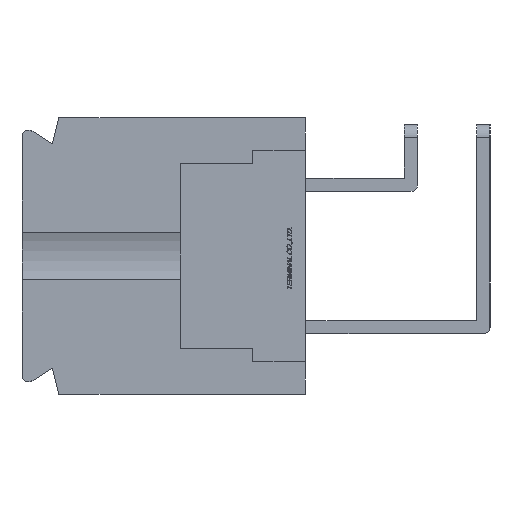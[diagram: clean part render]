
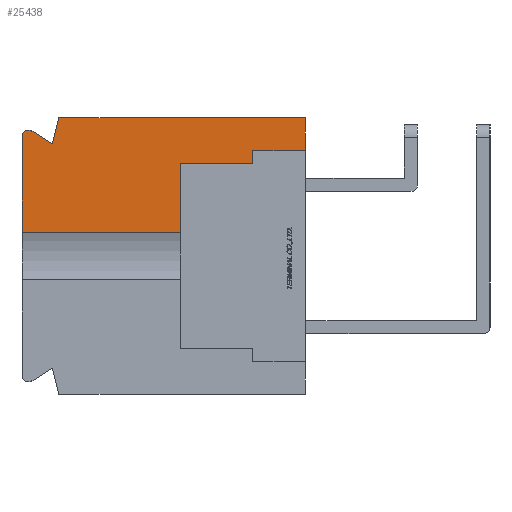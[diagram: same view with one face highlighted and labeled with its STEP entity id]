
A CAD part, left-side view. The second image highlights one B-rep face of the part: STEP entity #25438.
In plain terms, the highlighted planar face has unit normal (-1, 0, 0).
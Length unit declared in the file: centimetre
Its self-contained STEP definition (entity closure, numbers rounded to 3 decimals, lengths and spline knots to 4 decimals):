
#570=CIRCLE('',#42968,0.05);
#1261=VECTOR('',#28192,1.);
#1262=VECTOR('',#28193,1.);
#1263=VECTOR('',#28194,1.);
#1264=VECTOR('',#28195,1.);
#1265=VECTOR('',#28196,1.);
#1266=VECTOR('',#28197,1.);
#1267=VECTOR('',#28198,1.);
#1268=VECTOR('',#28199,1.);
#1269=VECTOR('',#28202,1.);
#1270=VECTOR('',#28203,1.);
#4328=LINE('',#34005,#1261);
#4329=LINE('',#34008,#1262);
#4330=LINE('',#34010,#1263);
#4331=LINE('',#34012,#1264);
#4332=LINE('',#34014,#1265);
#4333=LINE('',#34016,#1266);
#4334=LINE('',#34018,#1267);
#4335=LINE('',#34020,#1268);
#4336=LINE('',#34024,#1269);
#4337=LINE('',#34026,#1270);
#7408=VERTEX_POINT('',#34006);
#7409=VERTEX_POINT('',#34007);
#7410=VERTEX_POINT('',#34009);
#7411=VERTEX_POINT('',#34011);
#7412=VERTEX_POINT('',#34013);
#7413=VERTEX_POINT('',#34015);
#7414=VERTEX_POINT('',#34017);
#7415=VERTEX_POINT('',#34019);
#7416=VERTEX_POINT('',#34021);
#7417=VERTEX_POINT('',#34023);
#7418=VERTEX_POINT('',#34025);
#10255=EDGE_CURVE('',#7408,#7409,#4328,.T.);
#10256=EDGE_CURVE('',#7410,#7408,#4329,.T.);
#10257=EDGE_CURVE('',#7411,#7410,#4330,.T.);
#10258=EDGE_CURVE('',#7412,#7411,#4331,.T.);
#10259=EDGE_CURVE('',#7413,#7412,#4332,.T.);
#10260=EDGE_CURVE('',#7414,#7413,#4333,.T.);
#10261=EDGE_CURVE('',#7415,#7414,#4334,.T.);
#10262=EDGE_CURVE('',#7416,#7415,#4335,.T.);
#10263=EDGE_CURVE('',#7417,#7416,#570,.T.);
#10264=EDGE_CURVE('',#7418,#7417,#4336,.T.);
#10265=EDGE_CURVE('',#7418,#7409,#4337,.T.);
#14355=ORIENTED_EDGE('',*,*,#10255,.F.);
#14356=ORIENTED_EDGE('',*,*,#10256,.F.);
#14357=ORIENTED_EDGE('',*,*,#10257,.F.);
#14358=ORIENTED_EDGE('',*,*,#10258,.F.);
#14359=ORIENTED_EDGE('',*,*,#10259,.F.);
#14360=ORIENTED_EDGE('',*,*,#10260,.F.);
#14361=ORIENTED_EDGE('',*,*,#10261,.F.);
#14362=ORIENTED_EDGE('',*,*,#10262,.F.);
#14363=ORIENTED_EDGE('',*,*,#10263,.F.);
#14364=ORIENTED_EDGE('',*,*,#10264,.F.);
#14365=ORIENTED_EDGE('',*,*,#10265,.T.);
#22172=EDGE_LOOP('',(#14355,#14356,#14357,#14358,#14359,#14360,#14361,#14362,
#14363,#14364,#14365));
#23810=FACE_BOUND('',#22172,.T.);
#25438=ADVANCED_FACE('',(#23810),#26905,.F.);
#26905=PLANE('',#42967);
#28191=DIRECTION('',(1.,0.,0.));
#28192=DIRECTION('',(0.,0.,-1.));
#28193=DIRECTION('',(0.,1.,0.));
#28194=DIRECTION('',(0.,0.,-1.));
#28195=DIRECTION('',(0.,1.,0.));
#28196=DIRECTION('',(0.,0.,-1.));
#28197=DIRECTION('',(0.,-1.,0.));
#28198=DIRECTION('',(0.,-0.243,0.97));
#28199=DIRECTION('',(0.,-0.844,-0.536));
#28200=DIRECTION('',(1.,0.,0.));
#28201=DIRECTION('',(0.,0.,-0.05));
#28202=DIRECTION('',(0.,0.,1.));
#28203=DIRECTION('',(0.,-1.,0.));
#34004=CARTESIAN_POINT('',(-1.1,1.082,0.));
#34005=CARTESIAN_POINT('',(-1.1,0.95,-0.7));
#34006=CARTESIAN_POINT('',(-1.1,0.95,0.7));
#34007=CARTESIAN_POINT('',(-1.1,0.95,0.1809));
#34008=CARTESIAN_POINT('',(-1.1,0.95,0.7));
#34009=CARTESIAN_POINT('',(-1.1,0.4,0.7));
#34010=CARTESIAN_POINT('',(-1.1,0.4,0.7));
#34011=CARTESIAN_POINT('',(-1.1,0.4,0.8));
#34012=CARTESIAN_POINT('',(-1.1,0.4,0.8));
#34013=CARTESIAN_POINT('',(-1.1,0.,0.8));
#34014=CARTESIAN_POINT('',(-1.1,0.,1.05));
#34015=CARTESIAN_POINT('',(-1.1,0.,1.05));
#34016=CARTESIAN_POINT('',(-1.1,1.87,1.05));
#34017=CARTESIAN_POINT('',(-1.1,1.87,1.05));
#34018=CARTESIAN_POINT('',(-1.1,1.92,0.85));
#34019=CARTESIAN_POINT('',(-1.1,1.92,0.85));
#34020=CARTESIAN_POINT('',(-1.1,2.0742,0.9478));
#34021=CARTESIAN_POINT('',(-1.1,2.0742,0.9478));
#34022=CARTESIAN_POINT('',(-1.1,2.1,0.905));
#34023=CARTESIAN_POINT('',(-1.1,2.15,0.905));
#34024=CARTESIAN_POINT('',(-1.1,2.15,-0.905));
#34025=CARTESIAN_POINT('',(-1.1,2.15,0.1809));
#34026=CARTESIAN_POINT('',(-1.1,1.55,0.1809));
#42967=AXIS2_PLACEMENT_3D('',#34004,#28191,$);
#42968=AXIS2_PLACEMENT_3D('',#34022,#28200,#28201);
